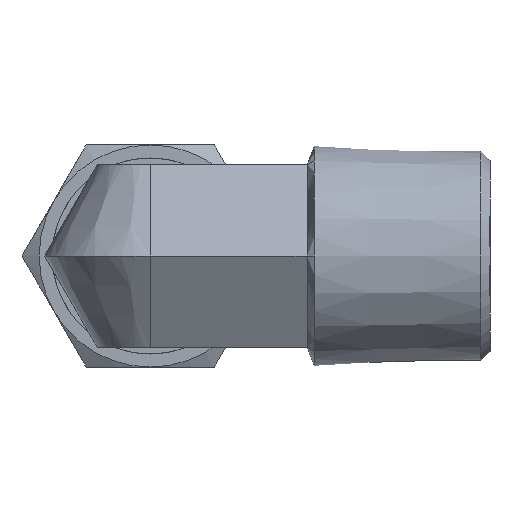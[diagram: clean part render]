
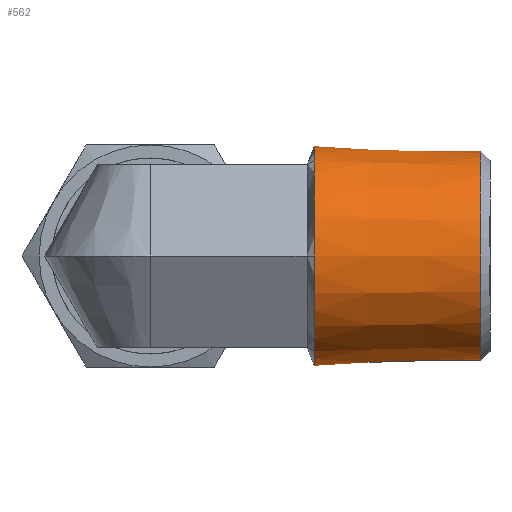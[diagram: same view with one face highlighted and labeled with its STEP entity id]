
A CAD part, left-side view. The second image highlights one B-rep face of the part: STEP entity #562.
In plain terms, the highlighted conical face has half-angle 1.79 degrees and reference radius 8.201 mm.
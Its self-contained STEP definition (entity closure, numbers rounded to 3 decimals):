
#225=CARTESIAN_POINT('',(4.2,13.451,7.275));
#226=VERTEX_POINT('',#225);
#227=CARTESIAN_POINT('',(8.4,13.451,0.));
#228=VERTEX_POINT('',#227);
#229=CARTESIAN_POINT('',(0.,13.451,0.0));
#230=DIRECTION('',(0.0,1.0,0.0));
#231=DIRECTION('',(-1.0,0.0,0.0));
#232=AXIS2_PLACEMENT_3D('',#229,#230,#231);
#233=CIRCLE('',#232,8.4);
#234=EDGE_CURVE('',#226,#228,#233,.T.);
#292=CARTESIAN_POINT('',(-4.2,13.451,7.275));
#293=VERTEX_POINT('',#292);
#294=CARTESIAN_POINT('',(0.,13.451,0.0));
#295=DIRECTION('',(0.0,1.0,0.0));
#296=DIRECTION('',(-1.0,0.0,0.0));
#297=AXIS2_PLACEMENT_3D('',#294,#295,#296);
#298=CIRCLE('',#297,8.4);
#299=EDGE_CURVE('',#293,#226,#298,.T.);
#349=CARTESIAN_POINT('',(-8.4,13.451,0.0));
#350=VERTEX_POINT('',#349);
#351=CARTESIAN_POINT('',(0.,13.451,0.0));
#352=DIRECTION('',(0.0,1.0,0.0));
#353=DIRECTION('',(-1.0,0.0,0.0));
#354=AXIS2_PLACEMENT_3D('',#351,#352,#353);
#355=CIRCLE('',#354,8.4);
#356=EDGE_CURVE('',#350,#293,#355,.T.);
#406=CARTESIAN_POINT('',(-4.2,13.451,-7.275));
#407=VERTEX_POINT('',#406);
#408=CARTESIAN_POINT('',(0.,13.451,0.0));
#409=DIRECTION('',(0.0,1.0,0.0));
#410=DIRECTION('',(-1.0,0.0,0.0));
#411=AXIS2_PLACEMENT_3D('',#408,#409,#410);
#412=CIRCLE('',#411,8.4);
#413=EDGE_CURVE('',#407,#350,#412,.T.);
#463=CARTESIAN_POINT('',(4.2,13.451,-7.275));
#464=VERTEX_POINT('',#463);
#465=CARTESIAN_POINT('',(0.,13.451,0.0));
#466=DIRECTION('',(0.0,1.0,0.0));
#467=DIRECTION('',(-1.0,0.0,0.0));
#468=AXIS2_PLACEMENT_3D('',#465,#466,#467);
#469=CIRCLE('',#468,8.4);
#470=EDGE_CURVE('',#464,#407,#469,.T.);
#520=CARTESIAN_POINT('',(0.,13.451,0.0));
#521=DIRECTION('',(0.0,1.0,0.0));
#522=DIRECTION('',(-1.0,0.0,0.0));
#523=AXIS2_PLACEMENT_3D('',#520,#521,#522);
#524=CIRCLE('',#523,8.4);
#525=EDGE_CURVE('',#228,#464,#524,.T.);
#538=CARTESIAN_POINT('',(0.,7.075,0.0));
#539=DIRECTION('',(0.0,1.0,0.0));
#540=DIRECTION('',(-1.0,0.0,0.0));
#541=AXIS2_PLACEMENT_3D('',#538,#539,#540);
#542=CONICAL_SURFACE('',#541,8.201,1.79);
#543=ORIENTED_EDGE('',*,*,#356,.F.);
#544=ORIENTED_EDGE('',*,*,#413,.F.);
#545=ORIENTED_EDGE('',*,*,#470,.F.);
#546=ORIENTED_EDGE('',*,*,#525,.F.);
#547=ORIENTED_EDGE('',*,*,#234,.F.);
#548=ORIENTED_EDGE('',*,*,#299,.F.);
#549=EDGE_LOOP('',(#543,#544,#545,#546,#547,#548));
#550=FACE_OUTER_BOUND('',#549,.T.);
#551=CARTESIAN_POINT('',(-8.002,0.7,0.0));
#552=VERTEX_POINT('',#551);
#553=CARTESIAN_POINT('',(0.,0.7,0.0));
#554=DIRECTION('',(0.0,1.0,0.0));
#555=DIRECTION('',(-1.0,0.0,0.0));
#556=AXIS2_PLACEMENT_3D('',#553,#554,#555);
#557=CIRCLE('',#556,8.002);
#558=EDGE_CURVE('',#552,#552,#557,.T.);
#559=ORIENTED_EDGE('',*,*,#558,.T.);
#560=EDGE_LOOP('',(#559));
#561=FACE_BOUND('',#560,.T.);
#562=ADVANCED_FACE('',(#550,#561),#542,.T.);
